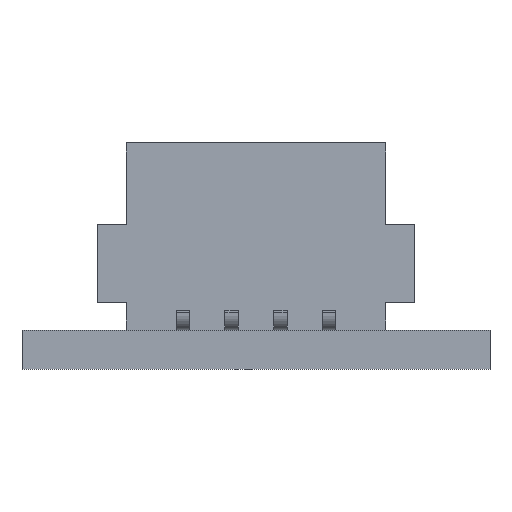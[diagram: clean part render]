
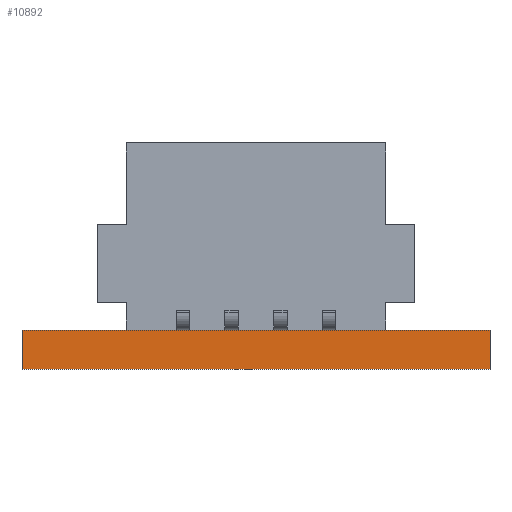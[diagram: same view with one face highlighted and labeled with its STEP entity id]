
A CAD part, front view. The second image highlights one B-rep face of the part: STEP entity #10892.
In plain terms, the highlighted planar face has unit normal (0, -1, 0).
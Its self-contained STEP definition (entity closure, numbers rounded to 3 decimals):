
#10469=CARTESIAN_POINT('Vertex',(-6.,-16.5,1.)) ;
#10472=CARTESIAN_POINT('Line Origine',(0.,-16.5,1.)) ;
#10476=CARTESIAN_POINT('Vertex',(6.,-16.5,1.)) ;
#10823=CARTESIAN_POINT('Vertex',(6.,-16.5,0.)) ;
#10828=CARTESIAN_POINT('Line Origine',(0.,-16.5,0.)) ;
#10832=CARTESIAN_POINT('Vertex',(-6.,-16.5,0.)) ;
#10859=CARTESIAN_POINT('Line Origine',(6.,-16.5,0.5)) ;
#10876=CARTESIAN_POINT('Axis2P3D Location',(6.,-16.5,0.)) ;
#10881=CARTESIAN_POINT('Line Origine',(-6.,-16.5,0.5)) ;
#10473=DIRECTION('Vector Direction',(-1.,0.,0.)) ;
#10829=DIRECTION('Vector Direction',(-1.,0.,0.)) ;
#10860=DIRECTION('Vector Direction',(0.,0.,1.)) ;
#10877=DIRECTION('Axis2P3D Direction',(0.,1.,-0.)) ;
#10878=DIRECTION('Axis2P3D XDirection',(-1.,0.,0.)) ;
#10882=DIRECTION('Vector Direction',(0.,0.,1.)) ;
#10879=AXIS2_PLACEMENT_3D('Plane Axis2P3D',#10876,#10877,#10878) ;
#10887=ORIENTED_EDGE('',*,*,#10885,.F.) ;
#10888=ORIENTED_EDGE('',*,*,#10834,.T.) ;
#10889=ORIENTED_EDGE('',*,*,#10863,.T.) ;
#10890=ORIENTED_EDGE('',*,*,#10478,.F.) ;
#10474=VECTOR('Line Direction',#10473,1.) ;
#10830=VECTOR('Line Direction',#10829,1.) ;
#10861=VECTOR('Line Direction',#10860,1.) ;
#10883=VECTOR('Line Direction',#10882,1.) ;
#10892=ADVANCED_FACE('Body.2',(#10891),#10880,.F.) ;
#10478=EDGE_CURVE('',#10470,#10477,#10475,.F.) ;
#10834=EDGE_CURVE('',#10833,#10824,#10831,.F.) ;
#10863=EDGE_CURVE('',#10824,#10477,#10862,.T.) ;
#10885=EDGE_CURVE('',#10833,#10470,#10884,.T.) ;
#10886=EDGE_LOOP('',(#10887,#10888,#10889,#10890)) ;
#10891=FACE_OUTER_BOUND('',#10886,.T.) ;
#10475=LINE('Line',#10472,#10474) ;
#10831=LINE('Line',#10828,#10830) ;
#10862=LINE('Line',#10859,#10861) ;
#10884=LINE('Line',#10881,#10883) ;
#10880=PLANE('Plane',#10879) ;
#10470=VERTEX_POINT('',#10469) ;
#10477=VERTEX_POINT('',#10476) ;
#10824=VERTEX_POINT('',#10823) ;
#10833=VERTEX_POINT('',#10832) ;
